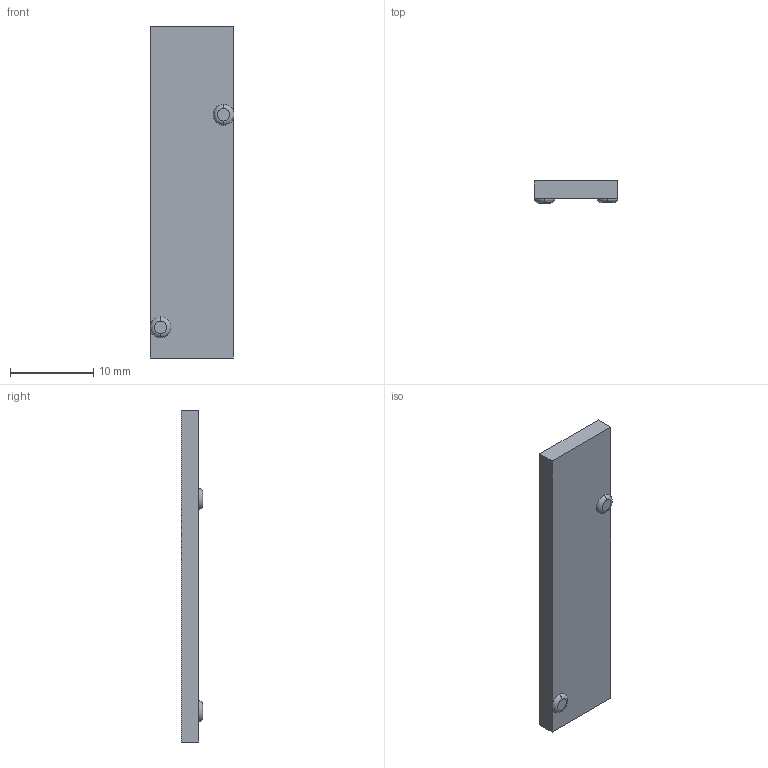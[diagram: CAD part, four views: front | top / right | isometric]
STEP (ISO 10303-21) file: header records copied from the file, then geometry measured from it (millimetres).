
FILE_DESCRIPTION( (''), '2;1');
FILE_NAME ('CVICAD02.13484.F10XBPP_6103.stp','2020-09-01T14:11:48',(''),(''),'spGate 12.6.6','','');
FILE_SCHEMA (('AUTOMOTIVE_DESIGN'));
Length unit declared in the file: millimetre
Bounding box: 10.1 x 2.6 x 40 mm (x, y, z)
Volume: 844.1 mm3; surface area: 1014.4 mm2
Topology: 1 solids, 1 shells, 14 faces, 32 edges, 20 vertices
Faces by surface type: plane 10, bspline 4
Entity records: 763 total; most frequent: CARTESIAN_POINT 172, ORIENTED_EDGE 64, DIRECTION 60, COLOUR_RGB 47, PRESENTATION_STYLE_ASSIGNMENT 47, STYLED_ITEM 47, EDGE_CURVE 32, DRAUGHTING_PRE_DEFINED_CURVE_FONT 32
